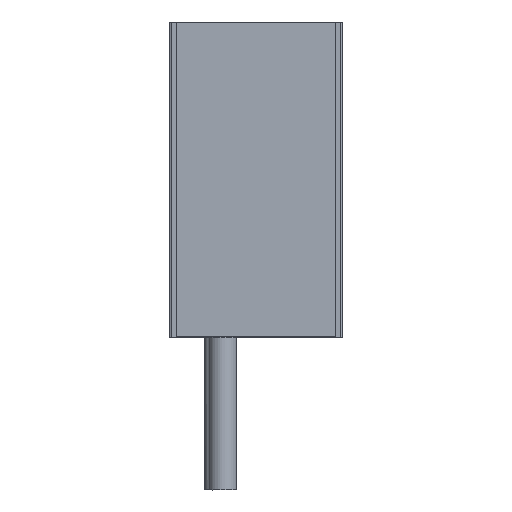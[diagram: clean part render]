
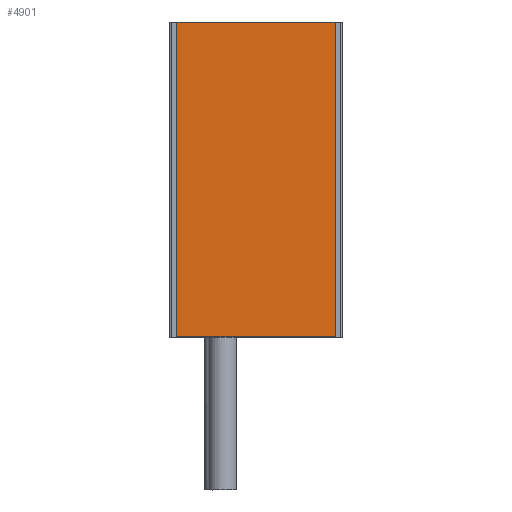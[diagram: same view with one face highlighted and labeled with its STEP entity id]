
A CAD part, top view. The second image highlights one B-rep face of the part: STEP entity #4901.
In plain terms, the highlighted planar face has unit normal (0, 0, 1).
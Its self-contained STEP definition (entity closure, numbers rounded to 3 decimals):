
#446=LINE('',#7110,#863);
#447=LINE('',#7113,#864);
#448=LINE('',#7115,#865);
#449=LINE('',#7117,#866);
#863=VECTOR('',#6079,1000.);
#864=VECTOR('',#6080,1000.);
#865=VECTOR('',#6081,1000.);
#866=VECTOR('',#6082,1000.);
#1723=ORIENTED_EDGE('',*,*,#2353,.F.);
#1724=ORIENTED_EDGE('',*,*,#2354,.T.);
#1725=ORIENTED_EDGE('',*,*,#2355,.T.);
#1726=ORIENTED_EDGE('',*,*,#2356,.F.);
#2353=EDGE_CURVE('',#2703,#2704,#446,.T.);
#2354=EDGE_CURVE('',#2703,#2705,#447,.T.);
#2355=EDGE_CURVE('',#2705,#2706,#448,.T.);
#2356=EDGE_CURVE('',#2704,#2706,#449,.T.);
#2703=VERTEX_POINT('',#7111);
#2704=VERTEX_POINT('',#7112);
#2705=VERTEX_POINT('',#7114);
#2706=VERTEX_POINT('',#7116);
#2997=EDGE_LOOP('',(#1723,#1724,#1725,#1726));
#3216=FACE_BOUND('',#2997,.T.);
#3374=PLANE('',#5174);
#4901=ADVANCED_FACE('',(#3216),#3374,.F.);
#5174=AXIS2_PLACEMENT_3D('',#7109,#6077,#6078);
#6077=DIRECTION('',(0.,0.,-1.));
#6078=DIRECTION('',(-1.,0.,0.));
#6079=DIRECTION('',(0.,-1.,0.));
#6080=DIRECTION('',(-1.,0.,0.));
#6081=DIRECTION('',(0.,-1.,0.));
#6082=DIRECTION('',(-1.,0.,0.));
#7109=CARTESIAN_POINT('',(27.2,0.1,0.12));
#7110=CARTESIAN_POINT('',(26.,157.1,0.12));
#7111=CARTESIAN_POINT('',(26.,92.9,0.12));
#7112=CARTESIAN_POINT('',(26.,0.1,0.12));
#7113=CARTESIAN_POINT('',(27.2,92.9,0.12));
#7114=CARTESIAN_POINT('',(-21.,92.9,0.12));
#7115=CARTESIAN_POINT('',(-21.,157.1,0.12));
#7116=CARTESIAN_POINT('',(-21.,0.1,0.12));
#7117=CARTESIAN_POINT('',(27.2,0.1,0.12));
